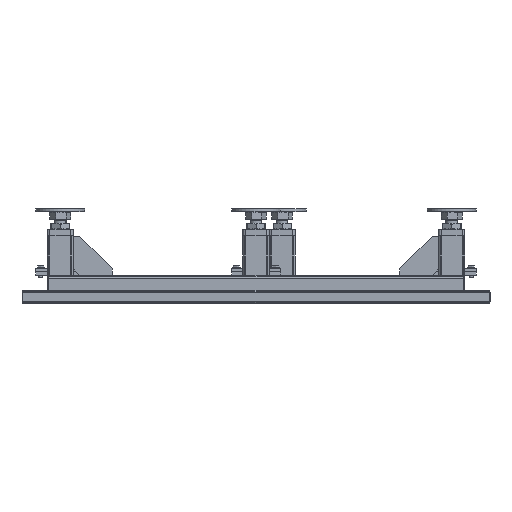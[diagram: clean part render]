
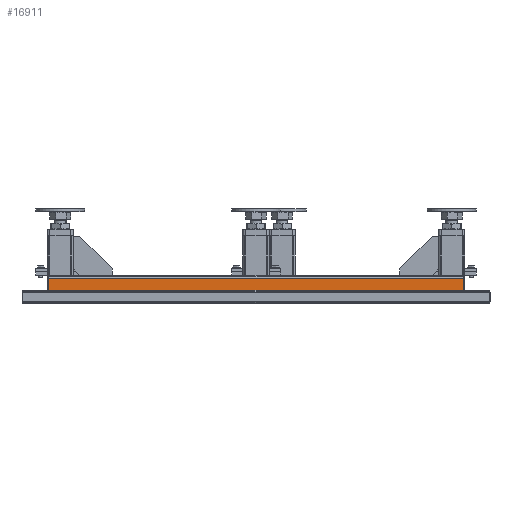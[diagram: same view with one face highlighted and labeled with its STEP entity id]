
A CAD part, left-side view. The second image highlights one B-rep face of the part: STEP entity #16911.
In plain terms, the highlighted planar face has unit normal (-1, 0, 0).
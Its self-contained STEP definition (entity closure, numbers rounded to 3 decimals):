
#337 = ORIENTED_EDGE ( 'NONE', *, *, #41610, .F. ) ;
#1657 = DIRECTION ( 'NONE',  ( 1., 0., 0. ) ) ;
#2071 = CARTESIAN_POINT ( 'NONE',  ( -1473.033, 500.34, -32. ) ) ;
#3123 = EDGE_CURVE ( 'NONE', #45415, #39317, #21964, .T. ) ;
#5788 = CARTESIAN_POINT ( 'NONE',  ( -1473.033, -739.66, -32. ) ) ;
#5849 = DIRECTION ( 'NONE',  ( 0., 0., -1. ) ) ;
#6484 = DIRECTION ( 'NONE',  ( 0., 0., 1. ) ) ;
#8456 = ORIENTED_EDGE ( 'NONE', *, *, #32094, .F. ) ;
#10661 = VECTOR ( 'NONE', #5849, 1000. ) ;
#12622 = CARTESIAN_POINT ( 'NONE',  ( -1473.033, 540.34, -32. ) ) ;
#15325 = LINE ( 'NONE', #28011, #31694 ) ;
#15715 = ORIENTED_EDGE ( 'NONE', *, *, #49267, .F. ) ;
#16704 = VERTEX_POINT ( 'NONE', #19072 ) ;
#16911 = ADVANCED_FACE ( 'NONE', ( #33429 ), #46743, .F. ) ;
#17187 = LINE ( 'NONE', #22686, #10661 ) ;
#19072 = CARTESIAN_POINT ( 'NONE',  ( -1473.033, 540.34, 32. ) ) ;
#21964 = LINE ( 'NONE', #2071, #37012 ) ;
#21989 = EDGE_LOOP ( 'NONE', ( #15715, #36934, #8456, #337 ) ) ;
#22686 = CARTESIAN_POINT ( 'NONE',  ( -1473.033, -739.66, 32. ) ) ;
#24505 = CARTESIAN_POINT ( 'NONE',  ( -1473.033, 500.34, 32. ) ) ;
#25936 = DIRECTION ( 'NONE',  ( 0., 1., 0. ) ) ;
#27437 = VECTOR ( 'NONE', #36756, 1000. ) ;
#28011 = CARTESIAN_POINT ( 'NONE',  ( -1473.033, 540.34, 32. ) ) ;
#30775 = CARTESIAN_POINT ( 'NONE',  ( -1473.033, -739.66, 32. ) ) ;
#31694 = VECTOR ( 'NONE', #6484, 1000. ) ;
#32094 = EDGE_CURVE ( 'NONE', #40931, #39317, #17187, .T. ) ;
#33429 = FACE_OUTER_BOUND ( 'NONE', #21989, .T. ) ;
#36756 = DIRECTION ( 'NONE',  ( 0., -1., 0. ) ) ;
#36934 = ORIENTED_EDGE ( 'NONE', *, *, #3123, .T. ) ;
#37012 = VECTOR ( 'NONE', #39134, 1000. ) ;
#39134 = DIRECTION ( 'NONE',  ( 0., -1., 0. ) ) ;
#39317 = VERTEX_POINT ( 'NONE', #5788 ) ;
#40931 = VERTEX_POINT ( 'NONE', #30775 ) ;
#41610 = EDGE_CURVE ( 'NONE', #16704, #40931, #45705, .T. ) ;
#42090 = AXIS2_PLACEMENT_3D ( 'NONE', #43295, #1657, #25936 ) ;
#43295 = CARTESIAN_POINT ( 'NONE',  ( -1473.033, 500.34, 32. ) ) ;
#45415 = VERTEX_POINT ( 'NONE', #12622 ) ;
#45705 = LINE ( 'NONE', #24505, #27437 ) ;
#46743 = PLANE ( 'NONE',  #42090 ) ;
#49267 = EDGE_CURVE ( 'NONE', #45415, #16704, #15325, .T. ) ;
